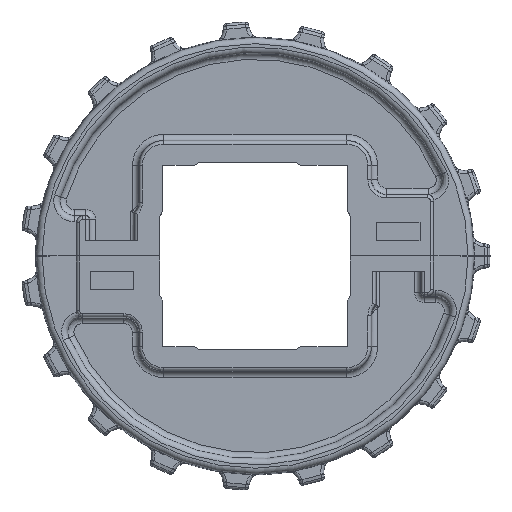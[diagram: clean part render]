
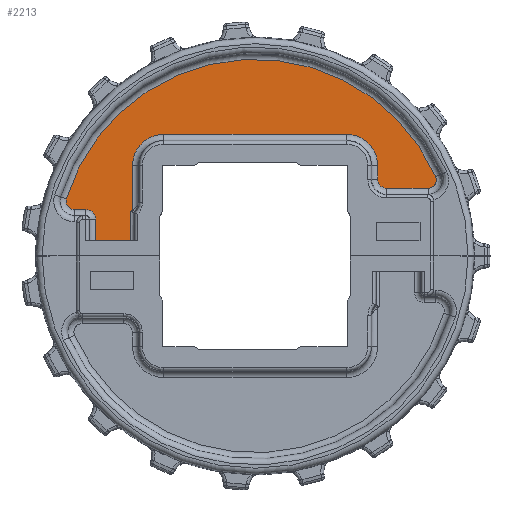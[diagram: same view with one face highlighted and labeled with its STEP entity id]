
A CAD part, top view. The second image highlights one B-rep face of the part: STEP entity #2213.
In plain terms, the highlighted planar face has unit normal (0, 0, 1).
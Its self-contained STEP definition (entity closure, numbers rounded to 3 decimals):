
#854=ELLIPSE('',#20604,4.001,4.);
#855=ELLIPSE('',#20607,3.001,3.);
#1336=PLANE('',#20611);
#2213=ADVANCED_FACE('',(#3707),#1336,.F.);
#3707=FACE_OUTER_BOUND('',#4917,.T.);
#4917=EDGE_LOOP('',(#11250,#11251,#11252,#11253,#11254,#11255,#11256,#11257,
#11258,#11259,#11260,#11261,#11262,#11263,#11264,#11265));
#5781=B_SPLINE_CURVE_WITH_KNOTS('',3,(#46330,#46331,#46332,#46333,#46334,
#46335,#46336,#46337,#46338,#46339,#46340,#46341,#46342,#46343,#46344,#46345,
#46346,#46347,#46348),.UNSPECIFIED.,.F.,.F.,(4,3,3,3,3,3,4),(0.,0.151,
0.321,0.491,0.66,0.83,
1.),.UNSPECIFIED.);
#6840=CIRCLE('',#20605,10.214);
#6841=CIRCLE('',#20606,10.214);
#6842=CIRCLE('',#20608,64.786);
#6843=CIRCLE('',#20609,2.786);
#6844=CIRCLE('',#20610,3.214);
#11250=ORIENTED_EDGE('',*,*,#16594,.T.);
#11251=ORIENTED_EDGE('',*,*,#16595,.T.);
#11252=ORIENTED_EDGE('',*,*,#16596,.T.);
#11253=ORIENTED_EDGE('',*,*,#16597,.T.);
#11254=ORIENTED_EDGE('',*,*,#16598,.T.);
#11255=ORIENTED_EDGE('',*,*,#16599,.T.);
#11256=ORIENTED_EDGE('',*,*,#16600,.T.);
#11257=ORIENTED_EDGE('',*,*,#16601,.T.);
#11258=ORIENTED_EDGE('',*,*,#16602,.T.);
#11259=ORIENTED_EDGE('',*,*,#16603,.T.);
#11260=ORIENTED_EDGE('',*,*,#16604,.T.);
#11261=ORIENTED_EDGE('',*,*,#16605,.T.);
#11262=ORIENTED_EDGE('',*,*,#16606,.T.);
#11263=ORIENTED_EDGE('',*,*,#16607,.T.);
#11264=ORIENTED_EDGE('',*,*,#16608,.T.);
#11265=ORIENTED_EDGE('',*,*,#16554,.T.);
#14081=VERTEX_POINT('',#46205);
#14082=VERTEX_POINT('',#46207);
#14108=VERTEX_POINT('',#46313);
#14109=VERTEX_POINT('',#46315);
#14110=VERTEX_POINT('',#46317);
#14111=VERTEX_POINT('',#46319);
#14112=VERTEX_POINT('',#46321);
#14113=VERTEX_POINT('',#46323);
#14114=VERTEX_POINT('',#46325);
#14115=VERTEX_POINT('',#46327);
#14116=VERTEX_POINT('',#46329);
#14117=VERTEX_POINT('',#46349);
#14118=VERTEX_POINT('',#46351);
#14119=VERTEX_POINT('',#46353);
#14120=VERTEX_POINT('',#46355);
#14121=VERTEX_POINT('',#46357);
#16554=EDGE_CURVE('',#14082,#14081,#17861,.T.);
#16594=EDGE_CURVE('',#14081,#14108,#17877,.T.);
#16595=EDGE_CURVE('',#14108,#14109,#854,.T.);
#16596=EDGE_CURVE('',#14109,#14110,#17878,.T.);
#16597=EDGE_CURVE('',#14110,#14111,#6840,.T.);
#16598=EDGE_CURVE('',#14111,#14112,#17879,.T.);
#16599=EDGE_CURVE('',#14112,#14113,#6841,.T.);
#16600=EDGE_CURVE('',#14113,#14114,#17880,.T.);
#16601=EDGE_CURVE('',#14114,#14115,#855,.T.);
#16602=EDGE_CURVE('',#14115,#14116,#17881,.T.);
#16603=EDGE_CURVE('',#14116,#14117,#5781,.T.);
#16604=EDGE_CURVE('',#14117,#14118,#6842,.T.);
#16605=EDGE_CURVE('',#14118,#14119,#6843,.T.);
#16606=EDGE_CURVE('',#14119,#14120,#17882,.T.);
#16607=EDGE_CURVE('',#14120,#14121,#6844,.T.);
#16608=EDGE_CURVE('',#14121,#14082,#17883,.T.);
#17861=LINE('',#46206,#18843);
#17877=LINE('',#46312,#18859);
#17878=LINE('',#46316,#18860);
#17879=LINE('',#46320,#18861);
#17880=LINE('',#46324,#18862);
#17881=LINE('',#46328,#18863);
#17882=LINE('',#46354,#18864);
#17883=LINE('',#46358,#18865);
#18843=VECTOR('',#25302,1.);
#18859=VECTOR('',#25374,1.);
#18860=VECTOR('',#25377,1.);
#18861=VECTOR('',#25380,1.);
#18862=VECTOR('',#25383,1.);
#18863=VECTOR('',#25386,1.);
#18864=VECTOR('',#25391,1.);
#18865=VECTOR('',#25394,1.);
#20604=AXIS2_PLACEMENT_3D('',#46314,#25375,#25376);
#20605=AXIS2_PLACEMENT_3D('',#46318,#25378,#25379);
#20606=AXIS2_PLACEMENT_3D('',#46322,#25381,#25382);
#20607=AXIS2_PLACEMENT_3D('',#46326,#25384,#25385);
#20608=AXIS2_PLACEMENT_3D('',#46350,#25387,#25388);
#20609=AXIS2_PLACEMENT_3D('',#46352,#25389,#25390);
#20610=AXIS2_PLACEMENT_3D('',#46356,#25392,#25393);
#20611=AXIS2_PLACEMENT_3D('',#46359,#25395,#25396);
#25302=DIRECTION('',(1.,0.,0.));
#25374=DIRECTION('',(0.,1.,0.));
#25375=DIRECTION('',(0.,0.,1.));
#25376=DIRECTION('',(0.707,-0.707,0.));
#25377=DIRECTION('',(0.,1.,0.));
#25378=DIRECTION('',(0.,0.,-1.));
#25379=DIRECTION('',(-1.,0.,0.));
#25380=DIRECTION('',(1.,0.,0.));
#25381=DIRECTION('',(0.,0.,-1.));
#25382=DIRECTION('',(-1.,0.,0.));
#25383=DIRECTION('',(0.,-1.,0.));
#25384=DIRECTION('',(0.,0.,1.));
#25385=DIRECTION('',(-0.707,-0.707,0.));
#25386=DIRECTION('',(1.,0.,0.));
#25387=DIRECTION('',(0.,0.,1.));
#25388=DIRECTION('',(-1.,0.,0.));
#25389=DIRECTION('',(0.,0.,1.));
#25390=DIRECTION('',(-1.,0.,0.));
#25391=DIRECTION('',(1.,0.,0.));
#25392=DIRECTION('',(0.,0.,-1.));
#25393=DIRECTION('',(-1.,0.,0.));
#25394=DIRECTION('',(0.,-1.,0.));
#25395=DIRECTION('',(0.,0.,-1.));
#25396=DIRECTION('',(-1.,0.,0.));
#46205=CARTESIAN_POINT('',(589.465,120.013,3.25));
#46206=CARTESIAN_POINT('',(644.63,120.013,3.25));
#46207=CARTESIAN_POINT('',(577.91,120.013,3.25));
#46312=CARTESIAN_POINT('',(589.465,154.763,3.25));
#46313=CARTESIAN_POINT('',(589.465,129.693,3.25));
#46314=CARTESIAN_POINT('',(586.964,132.816,3.25));
#46315=CARTESIAN_POINT('',(589.982,130.189,3.25));
#46316=CARTESIAN_POINT('',(589.982,154.763,3.25));
#46317=CARTESIAN_POINT('',(589.982,144.693,3.25));
#46318=CARTESIAN_POINT('',(600.196,144.693,3.25));
#46319=CARTESIAN_POINT('',(600.196,154.907,3.25));
#46320=CARTESIAN_POINT('',(644.63,154.907,3.25));
#46321=CARTESIAN_POINT('',(660.196,154.907,3.25));
#46322=CARTESIAN_POINT('',(660.196,144.693,3.25));
#46323=CARTESIAN_POINT('',(670.41,144.693,3.25));
#46324=CARTESIAN_POINT('',(670.41,154.763,3.25));
#46325=CARTESIAN_POINT('',(670.41,140.227,3.25));
#46326=CARTESIAN_POINT('',(673.411,140.228,3.25));
#46327=CARTESIAN_POINT('',(673.41,137.227,3.25));
#46328=CARTESIAN_POINT('',(644.63,137.227,3.25));
#46329=CARTESIAN_POINT('',(686.954,137.227,3.25));
#46330=CARTESIAN_POINT('',(686.954,137.227,3.25));
#46331=CARTESIAN_POINT('',(687.224,137.227,3.25));
#46332=CARTESIAN_POINT('',(687.497,137.269,3.25));
#46333=CARTESIAN_POINT('',(687.755,137.349,3.25));
#46334=CARTESIAN_POINT('',(688.044,137.438,3.25));
#46335=CARTESIAN_POINT('',(688.321,137.579,3.25));
#46336=CARTESIAN_POINT('',(688.563,137.759,3.25));
#46337=CARTESIAN_POINT('',(688.806,137.939,3.25));
#46338=CARTESIAN_POINT('',(689.021,138.163,3.25));
#46339=CARTESIAN_POINT('',(689.19,138.413,3.25));
#46340=CARTESIAN_POINT('',(689.359,138.664,3.25));
#46341=CARTESIAN_POINT('',(689.488,138.947,3.25));
#46342=CARTESIAN_POINT('',(689.565,139.239,3.25));
#46343=CARTESIAN_POINT('',(689.642,139.531,3.25));
#46344=CARTESIAN_POINT('',(689.669,139.841,3.25));
#46345=CARTESIAN_POINT('',(689.645,140.142,3.25));
#46346=CARTESIAN_POINT('',(689.621,140.443,3.25));
#46347=CARTESIAN_POINT('',(689.545,140.745,3.25));
#46348=CARTESIAN_POINT('',(689.422,141.021,3.25));
#46349=CARTESIAN_POINT('',(689.422,141.021,3.25));
#46350=CARTESIAN_POINT('',(630.196,114.763,3.25));
#46351=CARTESIAN_POINT('',(568.28,133.833,3.25));
#46352=CARTESIAN_POINT('',(570.943,133.013,3.25));
#46353=CARTESIAN_POINT('',(570.943,130.227,3.25));
#46354=CARTESIAN_POINT('',(644.63,130.227,3.25));
#46355=CARTESIAN_POINT('',(574.696,130.227,3.25));
#46356=CARTESIAN_POINT('',(574.696,127.013,3.25));
#46357=CARTESIAN_POINT('',(577.91,127.013,3.25));
#46358=CARTESIAN_POINT('',(577.91,154.763,3.25));
#46359=CARTESIAN_POINT('',(644.63,154.763,3.25));
